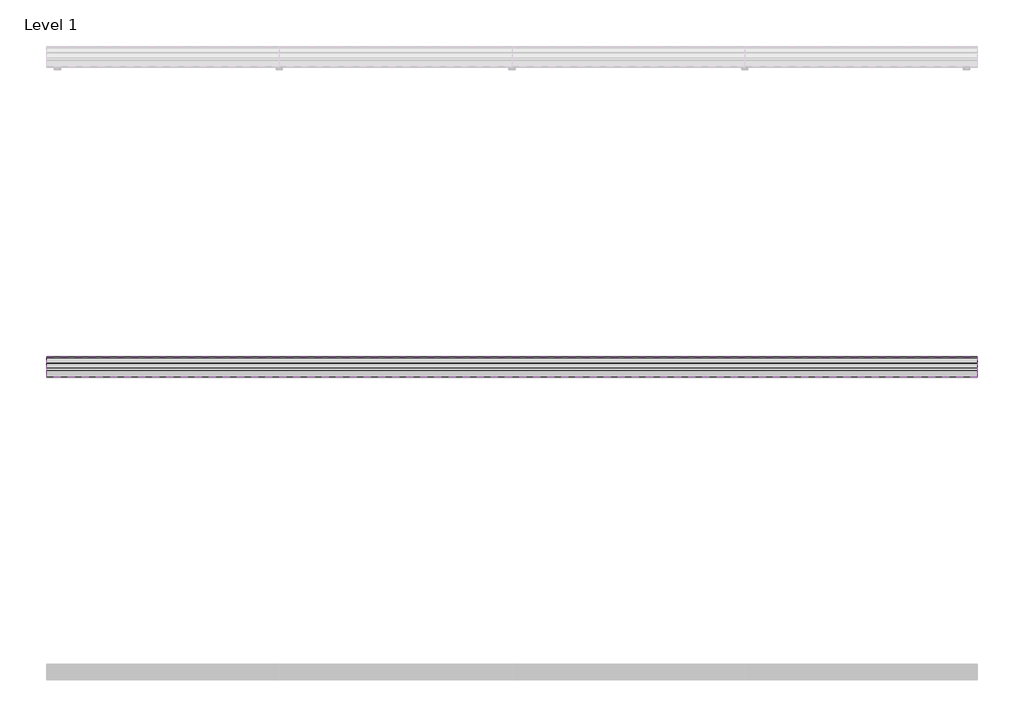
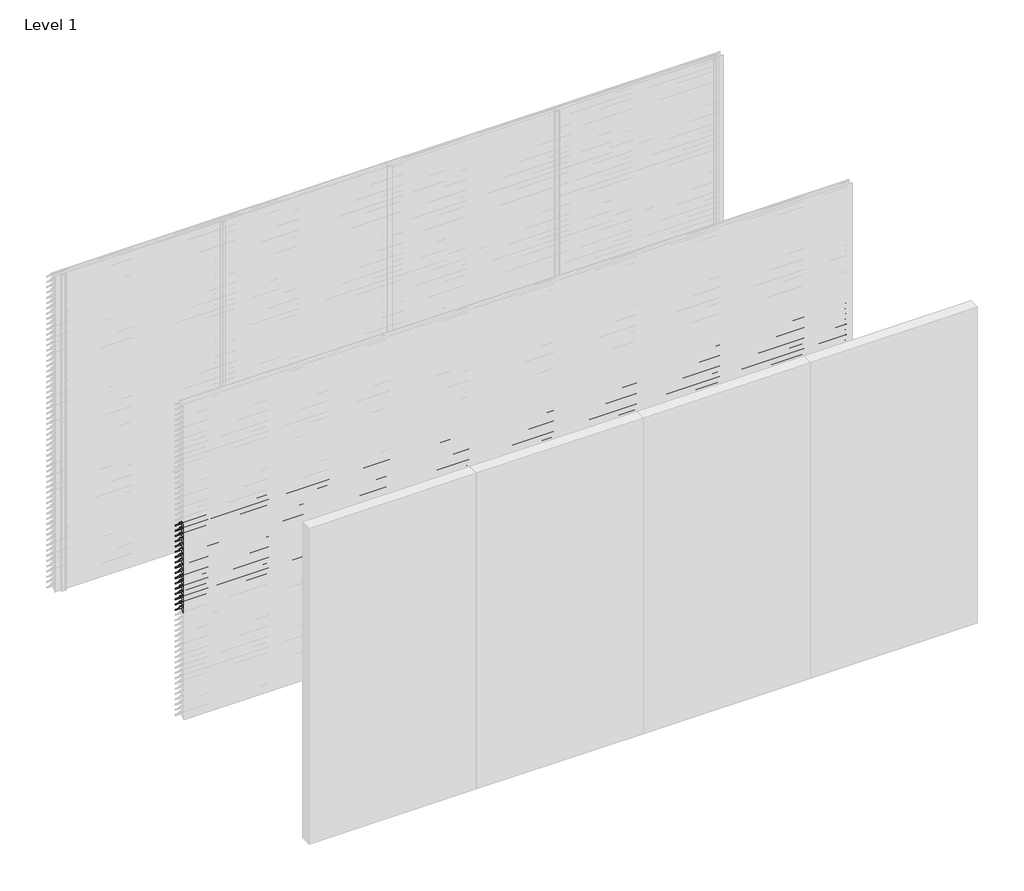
# One storey, part 90 of 173: 17 proxies.
"""IFC4 building model written with IfcOpenShell, lengths in millimetres."""

import ifcopenshell
import ifcopenshell.guid

model = None  # the IFC model being written
_history = None  # IfcOwnerHistory: only IFC2X3 demands one
_inside = {}  # id of a spatial element -> (the spatial element, [elements in it])
_under = {}  # id of a project, library or spatial element -> (it, [spatial elements below it])
_declared = {}  # id of a project -> (the project, [libraries it declares])
_typed = {}  # id of a type object -> (the type object, [elements of that type])
_made_of = {}  # id of a material, layer set ... -> (it, [elements and type objects made of it])


def new_model(schema):
    """Start an empty IFC model of exactly this schema.

    Asked for "IFC4X3", IfcOpenShell would pick the latest addendum, in which some entities
    have other attributes; the version numbers below select the first issue.
    IFC2X3 requires an IfcOwnerHistory on every rooted entity: one is made here for all.
    """
    global model, _history
    if schema == "IFC4X3":
        model = ifcopenshell.file(schema_version=(4, 3, 0, 0))
    else:
        model = ifcopenshell.file(schema=schema)
    _inside.clear()
    _under.clear()
    _declared.clear()
    _typed.clear()
    _made_of.clear()
    _history = None
    if model.schema == "IFC2X3":
        org = make("IfcOrganization", Name="unknown")
        user = make(
            "IfcPersonAndOrganization",
            ThePerson=make("IfcPerson", FamilyName="unknown"),
            TheOrganization=org,
        )
        app = make(
            "IfcApplication",
            ApplicationDeveloper=org,
            Version="unknown",
            ApplicationFullName="unknown",
            ApplicationIdentifier="unknown",
        )
        _history = make(
            "IfcOwnerHistory",
            OwningUser=user,
            OwningApplication=app,
            ChangeAction="ADDED",
            CreationDate=0,
        )
    return model


def make(cls, **values):
    """One entity of the class cls with the attributes given. An attribute that is None is left unset."""
    return model.create_entity(
        cls, **{name: value for name, value in values.items() if value is not None}
    )


def rooted(cls, **values):
    """An entity with a GlobalId (a new one), such as an element, a storey or a relation."""
    return make(cls, GlobalId=ifcopenshell.guid.new(), OwnerHistory=_history, **values)


def si_unit(unit_type, name, prefix=None):
    """IfcSIUnit, for example si_unit("LENGTHUNIT", "METRE", prefix="MILLI")."""
    return make("IfcSIUnit", UnitType=unit_type, Prefix=prefix, Name=name)


def assignment(units):
    """IfcUnitAssignment: the units of a project."""
    return None if units is None else make("IfcUnitAssignment", Units=units)


def point(xyz):
    """IfcCartesianPoint."""
    return None if xyz is None else make("IfcCartesianPoint", Coordinates=xyz)


def direction(xyz):
    """IfcDirection."""
    return None if xyz is None else make("IfcDirection", DirectionRatios=xyz)


def frame(location, z_axis=None, x_axis=None):
    """IfcAxis2Placement3D, a coordinate frame: its origin and axes. An axis left out is left unset."""
    return make(
        "IfcAxis2Placement3D",
        Location=point(location),
        Axis=direction(z_axis),
        RefDirection=direction(x_axis),
    )


def frame_2d(location, x_axis=None):
    """IfcAxis2Placement2D, a coordinate frame in the plane: its origin and x axis."""
    return make(
        "IfcAxis2Placement2D", Location=point(location), RefDirection=direction(x_axis)
    )


def origin():
    """The frame at (0, 0, 0) with its axes left unset."""
    return frame((0.0, 0.0, 0.0))


def place(relative_to, where):
    """IfcLocalPlacement: puts the frame where relative to a parent placement (None: the world)."""
    return make(
        "IfcLocalPlacement", PlacementRelTo=relative_to, RelativePlacement=where
    )


def context(
    kind, dimensions, precision=None, world=None, true_north=None, identifier=None
):
    """IfcGeometricRepresentationContext, for example the 3D "Model" context."""
    return make(
        "IfcGeometricRepresentationContext",
        ContextIdentifier=identifier,
        ContextType=kind,
        CoordinateSpaceDimension=dimensions,
        Precision=precision,
        WorldCoordinateSystem=world,
        TrueNorth=true_north,
    )


def project(units=None, contexts=None):
    """IfcProject with its units and contexts."""
    return rooted(
        "IfcProject",
        Name="project",
        RepresentationContexts=contexts,
        UnitsInContext=assignment(units),
    )


def spatial(cls, under=None, at=None, **own):
    """A site, building, storey or space (cls), placed at a placement, below another one or the project."""
    s = rooted(cls, ObjectPlacement=at, **own)
    if under is not None:
        _under.setdefault(under.id(), (under, []))[1].append(s)
    return s


def polyline(points):
    """IfcPolyline through the points."""
    return make("IfcPolyline", Points=[point(p) for p in points])


def circle_curve(where, radius):
    """IfcCircle in the frame where."""
    return make("IfcCircle", Position=where, Radius=radius)


def trimmed(basis, trim1, trim2, sense, master):
    """IfcTrimmedCurve: the piece of a basis curve between two trims."""
    return make(
        "IfcTrimmedCurve",
        BasisCurve=basis,
        Trim1=trim1,
        Trim2=trim2,
        SenseAgreement=sense,
        MasterRepresentation=master,
    )


def segment(curve, same_sense, transition):
    """IfcCompositeCurveSegment."""
    return make(
        "IfcCompositeCurveSegment",
        Transition=transition,
        SameSense=same_sense,
        ParentCurve=curve,
    )


def composite_curve(segments, self_intersect=None):
    """IfcCompositeCurve: segments joined end to end."""
    return make("IfcCompositeCurve", Segments=segments, SelfIntersect=self_intersect)


def outline(outer, holes=None, kind="AREA"):
    """IfcArbitraryClosedProfileDef: a profile drawn as a closed curve; with holes, ...WithVoids."""
    if holes is None:
        return make("IfcArbitraryClosedProfileDef", ProfileType=kind, OuterCurve=outer)
    return make(
        "IfcArbitraryProfileDefWithVoids",
        ProfileType=kind,
        OuterCurve=outer,
        InnerCurves=holes,
    )


def extrude(swept, where, along, depth):
    """IfcExtrudedAreaSolid: the profile swept, set in the frame where, extruded along a direction by depth."""
    return make(
        "IfcExtrudedAreaSolid",
        SweptArea=swept,
        Position=where,
        ExtrudedDirection=direction(along),
        Depth=depth,
    )


def shape(context_of_items, identifier, shape_type, items):
    """IfcShapeRepresentation: the items that make up one representation, for example the "Body"."""
    return make(
        "IfcShapeRepresentation",
        ContextOfItems=context_of_items,
        RepresentationIdentifier=identifier,
        RepresentationType=shape_type,
        Items=items,
    )


def made_of(thing, what):
    """Note that an element or type object is made of a material, layer set ...; save() writes the relation."""
    if what is not None:
        _made_of.setdefault(what.id(), (what, []))[1].append(thing)
    return thing


def element(
    cls,
    number,
    at=None,
    inside=None,
    cuts=None,
    type_object=None,
    material=None,
    context=None,
    identifier="Body",
    shape_type=None,
    held_by="IfcProductDefinitionShape",
    body=None,
    shapes=None,
    **own,
):
    """One element of the class cls, such as IfcWall. Its Tag is "e" and its number.

    at: its placement. inside: the storey or other place that contains it. cuts: it is an
    opening in that element (IfcRelVoidsElement). A single representation is given by context,
    identifier, shape_type and body (its items); several are given by shapes. held_by: the class
    of the entity that holds the representations. save() writes the other relations.
    """
    e = rooted(cls, Tag="e%d" % number, ObjectPlacement=at, **own)
    if body is not None:
        shapes = [shape(context, identifier, shape_type, body)]
    if shapes is not None:
        e.Representation = make(held_by, Representations=shapes)
    if inside is not None:
        _inside.setdefault(inside.id(), (inside, []))[1].append(e)
    if cuts is not None:
        rooted(
            "IfcRelVoidsElement", RelatingBuildingElement=cuts, RelatedOpeningElement=e
        )
    if type_object is not None:
        _typed.setdefault(type_object.id(), (type_object, []))[1].append(e)
    return made_of(e, material)


def aggregate(whole, parts):
    """IfcRelAggregates: a whole, such as a stair, and the parts it consists of."""
    return rooted("IfcRelAggregates", RelatingObject=whole, RelatedObjects=parts)


def save(model, path):
    """Write the relations noted so far, then the file.

    IfcRelAggregates (storeys below a building ...), IfcRelContainedInSpatialStructure (elements
    in a storey), IfcRelDefinesByType, IfcRelAssociatesMaterial and IfcRelDeclares: one each for
    every whole, place, type object, material and project.
    """
    for whole, parts in _under.values():
        aggregate(whole, parts)
    for where, things in _inside.values():
        rooted(
            "IfcRelContainedInSpatialStructure",
            RelatedElements=things,
            RelatingStructure=where,
        )
    for kind, things in _typed.values():
        rooted("IfcRelDefinesByType", RelatedObjects=things, RelatingType=kind)
    for what, things in _made_of.values():
        rooted("IfcRelAssociatesMaterial", RelatedObjects=things, RelatingMaterial=what)
    for by, libraries in _declared.values():
        rooted("IfcRelDeclares", RelatingContext=by, RelatedDefinitions=libraries)
    model.write(path)


model = new_model("IFC4")

# Units and contexts
model_context = context("Model", 3, world=origin())
ifc_project = project(units=[si_unit("LENGTHUNIT", "METRE", prefix="MILLI")], contexts=[model_context])

# Site, building, storey
site = spatial("IfcSite", under=ifc_project)
building = spatial("IfcBuilding", under=site)
storey = spatial("IfcBuildingStorey", under=building, Name="Level 1", Elevation=0.0)

# Proxies
placement = place(None, origin())
element("IfcBuildingElementProxy", 1, Name="Wall Sweeps", at=placement, inside=storey, context=model_context, shape_type="SweptSolid", body=[
    extrude(outline(composite_curve([segment(polyline([(-25998.0, 1809.1474905), (-25998.0, 1811.6227417)]), True, "CONTINUOUS"), segment(trimmed(circle_curve(frame_2d((-25951.2682172, 1766.2200208)), 65.1557103), [point((-25998.0, 1811.6227417))], [point((-25954.4014323, 1831.3003524))], False, "CARTESIAN"), True, "CONTINUOUS"), segment(polyline([(-25954.4014323, 1831.3003524), (-25934.8315836, 1831.3003524)]), True, "CONTINUOUS"), segment(trimmed(circle_curve(frame_2d((-25732.7329489, 1978.5533172)), 250.0545817), [point((-25934.8315836, 1831.3003524))], [point((-25941.4452143, 1840.8344583))], False, "CARTESIAN"), True, "CONTINUOUS"), segment(trimmed(circle_curve(frame_2d((-25953.2981792, 1835.1737835)), 13.1352966), [point((-25941.4452143, 1840.8344583))], [point((-25953.8171475, 1848.298824))], True, "CARTESIAN"), True, "CONTINUOUS"), segment(polyline([(-25953.8171475, 1848.298824), (-25953.8171475, 1850.0)]), True, "CONTINUOUS"), segment(trimmed(circle_curve(frame_2d((-25953.2981792, 1835.1737835)), 14.8352966), [point((-25953.8171475, 1850.0))], [point((-25939.9637661, 1841.6760487))], False, "CARTESIAN"), True, "CONTINUOUS"), segment(trimmed(circle_curve(frame_2d((-25732.7329489, 1978.5533172)), 248.3545817), [point((-25939.9637661, 1841.6760487))], [point((-25873.8787895, 1774.2059416))], True, "CARTESIAN"), True, "CONTINUOUS"), segment(trimmed(circle_curve(frame_2d((-25883.8147537, 1761.6649442)), 16.0), [point((-25873.8787895, 1774.2059416))], [point((-25867.8648347, 1760.4))], False, "CARTESIAN"), True, "CONTINUOUS"), segment(polyline([(-25867.8648347, 1760.4), (-25869.6712069, 1760.4)]), True, "CONTINUOUS"), segment(trimmed(circle_curve(frame_2d((-25883.8147537, 1761.6649442)), 14.2), [point((-25869.6712069, 1760.4))], [point((-25874.9518628, 1772.7594998))], True, "CARTESIAN"), True, "CONTINUOUS"), segment(trimmed(circle_curve(frame_2d((-25732.7329489, 1978.5533172)), 250.1545817), [point((-25874.9518628, 1772.7594998))], [point((-25933.7064024, 1829.6003524))], False, "CARTESIAN"), True, "CONTINUOUS"), segment(polyline([(-25933.7064024, 1829.6003524), (-25954.3602632, 1829.6003524)]), True, "CONTINUOUS"), segment(trimmed(circle_curve(frame_2d((-25951.2682172, 1766.2200208)), 63.4557103), [point((-25954.3602632, 1829.6003524))], [point((-25998.0, 1809.1474905))], True, "CARTESIAN"), True, "CONTINUOUS")], self_intersect=False)), frame((0.0, 0.0, 0.0), z_axis=(1.0, 0.0, 0.0), x_axis=(0.0, 1.0, 0.0)), (0.0, 0.0, 1.0), 6000.0),
])
element("IfcBuildingElementProxy", 2, Name="Wall Sweeps", at=placement, inside=storey, context=model_context, shape_type="SweptSolid", body=[
    extrude(outline(composite_curve([segment(polyline([(-25998.0, 1759.1474905), (-25998.0, 1761.6227417)]), True, "CONTINUOUS"), segment(trimmed(circle_curve(frame_2d((-25951.2682172, 1716.2200208)), 65.1557103), [point((-25998.0, 1761.6227417))], [point((-25954.4014323, 1781.3003524))], False, "CARTESIAN"), True, "CONTINUOUS"), segment(polyline([(-25954.4014323, 1781.3003524), (-25934.8315836, 1781.3003524)]), True, "CONTINUOUS"), segment(trimmed(circle_curve(frame_2d((-25732.7329489, 1928.5533172)), 250.0545817), [point((-25934.8315836, 1781.3003524))], [point((-25941.4452143, 1790.8344583))], False, "CARTESIAN"), True, "CONTINUOUS"), segment(trimmed(circle_curve(frame_2d((-25953.2981792, 1785.1737835)), 13.1352966), [point((-25941.4452143, 1790.8344583))], [point((-25953.8171475, 1798.298824))], True, "CARTESIAN"), True, "CONTINUOUS"), segment(polyline([(-25953.8171475, 1798.298824), (-25953.8171475, 1800.0)]), True, "CONTINUOUS"), segment(trimmed(circle_curve(frame_2d((-25953.2981792, 1785.1737835)), 14.8352966), [point((-25953.8171475, 1800.0))], [point((-25939.9637661, 1791.6760487))], False, "CARTESIAN"), True, "CONTINUOUS"), segment(trimmed(circle_curve(frame_2d((-25732.7329489, 1928.5533172)), 248.3545817), [point((-25939.9637661, 1791.6760487))], [point((-25873.8787895, 1724.2059416))], True, "CARTESIAN"), True, "CONTINUOUS"), segment(trimmed(circle_curve(frame_2d((-25883.8147537, 1711.6649442)), 16.0), [point((-25873.8787895, 1724.2059416))], [point((-25867.8648347, 1710.4))], False, "CARTESIAN"), True, "CONTINUOUS"), segment(polyline([(-25867.8648347, 1710.4), (-25869.6712069, 1710.4)]), True, "CONTINUOUS"), segment(trimmed(circle_curve(frame_2d((-25883.8147537, 1711.6649442)), 14.2), [point((-25869.6712069, 1710.4))], [point((-25874.9518628, 1722.7594998))], True, "CARTESIAN"), True, "CONTINUOUS"), segment(trimmed(circle_curve(frame_2d((-25732.7329489, 1928.5533172)), 250.1545817), [point((-25874.9518628, 1722.7594998))], [point((-25933.7064024, 1779.6003524))], False, "CARTESIAN"), True, "CONTINUOUS"), segment(polyline([(-25933.7064024, 1779.6003524), (-25954.3602632, 1779.6003524)]), True, "CONTINUOUS"), segment(trimmed(circle_curve(frame_2d((-25951.2682172, 1716.2200208)), 63.4557103), [point((-25954.3602632, 1779.6003524))], [point((-25998.0, 1759.1474905))], True, "CARTESIAN"), True, "CONTINUOUS")], self_intersect=False)), frame((0.0, 0.0, 0.0), z_axis=(1.0, 0.0, 0.0), x_axis=(0.0, 1.0, 0.0)), (0.0, 0.0, 1.0), 6000.0),
])
element("IfcBuildingElementProxy", 3, Name="Wall Sweeps", at=placement, inside=storey, context=model_context, shape_type="SweptSolid", body=[
    extrude(outline(composite_curve([segment(polyline([(-25998.0, 1709.1474905), (-25998.0, 1711.6227417)]), True, "CONTINUOUS"), segment(trimmed(circle_curve(frame_2d((-25951.2682172, 1666.2200208)), 65.1557103), [point((-25998.0, 1711.6227417))], [point((-25954.4014323, 1731.3003524))], False, "CARTESIAN"), True, "CONTINUOUS"), segment(polyline([(-25954.4014323, 1731.3003524), (-25934.8315836, 1731.3003524)]), True, "CONTINUOUS"), segment(trimmed(circle_curve(frame_2d((-25732.7329489, 1878.5533172)), 250.0545817), [point((-25934.8315836, 1731.3003524))], [point((-25941.4452143, 1740.8344583))], False, "CARTESIAN"), True, "CONTINUOUS"), segment(trimmed(circle_curve(frame_2d((-25953.2981792, 1735.1737835)), 13.1352966), [point((-25941.4452143, 1740.8344583))], [point((-25953.8171475, 1748.298824))], True, "CARTESIAN"), True, "CONTINUOUS"), segment(polyline([(-25953.8171475, 1748.298824), (-25953.8171475, 1750.0)]), True, "CONTINUOUS"), segment(trimmed(circle_curve(frame_2d((-25953.2981792, 1735.1737835)), 14.8352966), [point((-25953.8171475, 1750.0))], [point((-25939.9637661, 1741.6760487))], False, "CARTESIAN"), True, "CONTINUOUS"), segment(trimmed(circle_curve(frame_2d((-25732.7329489, 1878.5533172)), 248.3545817), [point((-25939.9637661, 1741.6760487))], [point((-25873.8787895, 1674.2059416))], True, "CARTESIAN"), True, "CONTINUOUS"), segment(trimmed(circle_curve(frame_2d((-25883.8147537, 1661.6649442)), 16.0), [point((-25873.8787895, 1674.2059416))], [point((-25867.8648347, 1660.4))], False, "CARTESIAN"), True, "CONTINUOUS"), segment(polyline([(-25867.8648347, 1660.4), (-25869.6712069, 1660.4)]), True, "CONTINUOUS"), segment(trimmed(circle_curve(frame_2d((-25883.8147537, 1661.6649442)), 14.2), [point((-25869.6712069, 1660.4))], [point((-25874.9518628, 1672.7594998))], True, "CARTESIAN"), True, "CONTINUOUS"), segment(trimmed(circle_curve(frame_2d((-25732.7329489, 1878.5533172)), 250.1545817), [point((-25874.9518628, 1672.7594998))], [point((-25933.7064024, 1729.6003524))], False, "CARTESIAN"), True, "CONTINUOUS"), segment(polyline([(-25933.7064024, 1729.6003524), (-25954.3602632, 1729.6003524)]), True, "CONTINUOUS"), segment(trimmed(circle_curve(frame_2d((-25951.2682172, 1666.2200208)), 63.4557103), [point((-25954.3602632, 1729.6003524))], [point((-25998.0, 1709.1474905))], True, "CARTESIAN"), True, "CONTINUOUS")], self_intersect=False)), frame((0.0, 0.0, 0.0), z_axis=(1.0, 0.0, 0.0), x_axis=(0.0, 1.0, 0.0)), (0.0, 0.0, 1.0), 6000.0),
])
element("IfcBuildingElementProxy", 4, Name="Wall Sweeps", at=placement, inside=storey, context=model_context, shape_type="SweptSolid", body=[
    extrude(outline(composite_curve([segment(polyline([(-25998.0, 1659.1474905), (-25998.0, 1661.6227417)]), True, "CONTINUOUS"), segment(trimmed(circle_curve(frame_2d((-25951.2682172, 1616.2200208)), 65.1557103), [point((-25998.0, 1661.6227417))], [point((-25954.4014323, 1681.3003524))], False, "CARTESIAN"), True, "CONTINUOUS"), segment(polyline([(-25954.4014323, 1681.3003524), (-25934.8315836, 1681.3003524)]), True, "CONTINUOUS"), segment(trimmed(circle_curve(frame_2d((-25732.7329489, 1828.5533172)), 250.0545817), [point((-25934.8315836, 1681.3003524))], [point((-25941.4452143, 1690.8344583))], False, "CARTESIAN"), True, "CONTINUOUS"), segment(trimmed(circle_curve(frame_2d((-25953.2981792, 1685.1737835)), 13.1352966), [point((-25941.4452143, 1690.8344583))], [point((-25953.8171475, 1698.298824))], True, "CARTESIAN"), True, "CONTINUOUS"), segment(polyline([(-25953.8171475, 1698.298824), (-25953.8171475, 1700.0)]), True, "CONTINUOUS"), segment(trimmed(circle_curve(frame_2d((-25953.2981792, 1685.1737835)), 14.8352966), [point((-25953.8171475, 1700.0))], [point((-25939.9637661, 1691.6760487))], False, "CARTESIAN"), True, "CONTINUOUS"), segment(trimmed(circle_curve(frame_2d((-25732.7329489, 1828.5533172)), 248.3545817), [point((-25939.9637661, 1691.6760487))], [point((-25873.8787895, 1624.2059416))], True, "CARTESIAN"), True, "CONTINUOUS"), segment(trimmed(circle_curve(frame_2d((-25883.8147537, 1611.6649442)), 16.0), [point((-25873.8787895, 1624.2059416))], [point((-25867.8648347, 1610.4))], False, "CARTESIAN"), True, "CONTINUOUS"), segment(polyline([(-25867.8648347, 1610.4), (-25869.6712069, 1610.4)]), True, "CONTINUOUS"), segment(trimmed(circle_curve(frame_2d((-25883.8147537, 1611.6649442)), 14.2), [point((-25869.6712069, 1610.4))], [point((-25874.9518628, 1622.7594998))], True, "CARTESIAN"), True, "CONTINUOUS"), segment(trimmed(circle_curve(frame_2d((-25732.7329489, 1828.5533172)), 250.1545817), [point((-25874.9518628, 1622.7594998))], [point((-25933.7064024, 1679.6003524))], False, "CARTESIAN"), True, "CONTINUOUS"), segment(polyline([(-25933.7064024, 1679.6003524), (-25954.3602632, 1679.6003524)]), True, "CONTINUOUS"), segment(trimmed(circle_curve(frame_2d((-25951.2682172, 1616.2200208)), 63.4557103), [point((-25954.3602632, 1679.6003524))], [point((-25998.0, 1659.1474905))], True, "CARTESIAN"), True, "CONTINUOUS")], self_intersect=False)), frame((0.0, 0.0, 0.0), z_axis=(1.0, 0.0, 0.0), x_axis=(0.0, 1.0, 0.0)), (0.0, 0.0, 1.0), 6000.0),
])
element("IfcBuildingElementProxy", 5, Name="Wall Sweeps", at=placement, inside=storey, context=model_context, shape_type="SweptSolid", body=[
    extrude(outline(composite_curve([segment(polyline([(-25998.0, 1609.1474905), (-25998.0, 1611.6227417)]), True, "CONTINUOUS"), segment(trimmed(circle_curve(frame_2d((-25951.2682172, 1566.2200208)), 65.1557103), [point((-25998.0, 1611.6227417))], [point((-25954.4014323, 1631.3003524))], False, "CARTESIAN"), True, "CONTINUOUS"), segment(polyline([(-25954.4014323, 1631.3003524), (-25934.8315836, 1631.3003524)]), True, "CONTINUOUS"), segment(trimmed(circle_curve(frame_2d((-25732.7329489, 1778.5533172)), 250.0545817), [point((-25934.8315836, 1631.3003524))], [point((-25941.4452143, 1640.8344583))], False, "CARTESIAN"), True, "CONTINUOUS"), segment(trimmed(circle_curve(frame_2d((-25953.2981792, 1635.1737835)), 13.1352966), [point((-25941.4452143, 1640.8344583))], [point((-25953.8171475, 1648.298824))], True, "CARTESIAN"), True, "CONTINUOUS"), segment(polyline([(-25953.8171475, 1648.298824), (-25953.8171475, 1650.0)]), True, "CONTINUOUS"), segment(trimmed(circle_curve(frame_2d((-25953.2981792, 1635.1737835)), 14.8352966), [point((-25953.8171475, 1650.0))], [point((-25939.9637661, 1641.6760487))], False, "CARTESIAN"), True, "CONTINUOUS"), segment(trimmed(circle_curve(frame_2d((-25732.7329489, 1778.5533172)), 248.3545817), [point((-25939.9637661, 1641.6760487))], [point((-25873.8787895, 1574.2059416))], True, "CARTESIAN"), True, "CONTINUOUS"), segment(trimmed(circle_curve(frame_2d((-25883.8147537, 1561.6649442)), 16.0), [point((-25873.8787895, 1574.2059416))], [point((-25867.8648347, 1560.4))], False, "CARTESIAN"), True, "CONTINUOUS"), segment(polyline([(-25867.8648347, 1560.4), (-25869.6712069, 1560.4)]), True, "CONTINUOUS"), segment(trimmed(circle_curve(frame_2d((-25883.8147537, 1561.6649442)), 14.2), [point((-25869.6712069, 1560.4))], [point((-25874.9518628, 1572.7594998))], True, "CARTESIAN"), True, "CONTINUOUS"), segment(trimmed(circle_curve(frame_2d((-25732.7329489, 1778.5533172)), 250.1545817), [point((-25874.9518628, 1572.7594998))], [point((-25933.7064024, 1629.6003524))], False, "CARTESIAN"), True, "CONTINUOUS"), segment(polyline([(-25933.7064024, 1629.6003524), (-25954.3602632, 1629.6003524)]), True, "CONTINUOUS"), segment(trimmed(circle_curve(frame_2d((-25951.2682172, 1566.2200208)), 63.4557103), [point((-25954.3602632, 1629.6003524))], [point((-25998.0, 1609.1474905))], True, "CARTESIAN"), True, "CONTINUOUS")], self_intersect=False)), frame((0.0, 0.0, 0.0), z_axis=(1.0, 0.0, 0.0), x_axis=(0.0, 1.0, 0.0)), (0.0, 0.0, 1.0), 6000.0),
])
element("IfcBuildingElementProxy", 6, Name="Wall Sweeps", at=placement, inside=storey, context=model_context, shape_type="SweptSolid", body=[
    extrude(outline(composite_curve([segment(polyline([(-25998.0, 1559.1474905), (-25998.0, 1561.6227417)]), True, "CONTINUOUS"), segment(trimmed(circle_curve(frame_2d((-25951.2682172, 1516.2200208)), 65.1557103), [point((-25998.0, 1561.6227417))], [point((-25954.4014323, 1581.3003524))], False, "CARTESIAN"), True, "CONTINUOUS"), segment(polyline([(-25954.4014323, 1581.3003524), (-25934.8315836, 1581.3003524)]), True, "CONTINUOUS"), segment(trimmed(circle_curve(frame_2d((-25732.7329489, 1728.5533172)), 250.0545817), [point((-25934.8315836, 1581.3003524))], [point((-25941.4452143, 1590.8344583))], False, "CARTESIAN"), True, "CONTINUOUS"), segment(trimmed(circle_curve(frame_2d((-25953.2981792, 1585.1737835)), 13.1352966), [point((-25941.4452143, 1590.8344583))], [point((-25953.8171475, 1598.298824))], True, "CARTESIAN"), True, "CONTINUOUS"), segment(polyline([(-25953.8171475, 1598.298824), (-25953.8171475, 1600.0)]), True, "CONTINUOUS"), segment(trimmed(circle_curve(frame_2d((-25953.2981792, 1585.1737835)), 14.8352966), [point((-25953.8171475, 1600.0))], [point((-25939.9637661, 1591.6760487))], False, "CARTESIAN"), True, "CONTINUOUS"), segment(trimmed(circle_curve(frame_2d((-25732.7329489, 1728.5533172)), 248.3545817), [point((-25939.9637661, 1591.6760487))], [point((-25873.8787895, 1524.2059416))], True, "CARTESIAN"), True, "CONTINUOUS"), segment(trimmed(circle_curve(frame_2d((-25883.8147537, 1511.6649442)), 16.0), [point((-25873.8787895, 1524.2059416))], [point((-25867.8648347, 1510.4))], False, "CARTESIAN"), True, "CONTINUOUS"), segment(polyline([(-25867.8648347, 1510.4), (-25869.6712069, 1510.4)]), True, "CONTINUOUS"), segment(trimmed(circle_curve(frame_2d((-25883.8147537, 1511.6649442)), 14.2), [point((-25869.6712069, 1510.4))], [point((-25874.9518628, 1522.7594998))], True, "CARTESIAN"), True, "CONTINUOUS"), segment(trimmed(circle_curve(frame_2d((-25732.7329489, 1728.5533172)), 250.1545817), [point((-25874.9518628, 1522.7594998))], [point((-25933.7064024, 1579.6003524))], False, "CARTESIAN"), True, "CONTINUOUS"), segment(polyline([(-25933.7064024, 1579.6003524), (-25954.3602632, 1579.6003524)]), True, "CONTINUOUS"), segment(trimmed(circle_curve(frame_2d((-25951.2682172, 1516.2200208)), 63.4557103), [point((-25954.3602632, 1579.6003524))], [point((-25998.0, 1559.1474905))], True, "CARTESIAN"), True, "CONTINUOUS")], self_intersect=False)), frame((0.0, 0.0, 0.0), z_axis=(1.0, 0.0, 0.0), x_axis=(0.0, 1.0, 0.0)), (0.0, 0.0, 1.0), 6000.0),
])
element("IfcBuildingElementProxy", 7, Name="Wall Sweeps", at=placement, inside=storey, context=model_context, shape_type="SweptSolid", body=[
    extrude(outline(composite_curve([segment(polyline([(-25998.0, 1509.1474905), (-25998.0, 1511.6227417)]), True, "CONTINUOUS"), segment(trimmed(circle_curve(frame_2d((-25951.2682172, 1466.2200208)), 65.1557103), [point((-25998.0, 1511.6227417))], [point((-25954.4014323, 1531.3003524))], False, "CARTESIAN"), True, "CONTINUOUS"), segment(polyline([(-25954.4014323, 1531.3003524), (-25934.8315836, 1531.3003524)]), True, "CONTINUOUS"), segment(trimmed(circle_curve(frame_2d((-25732.7329489, 1678.5533172)), 250.0545817), [point((-25934.8315836, 1531.3003524))], [point((-25941.4452143, 1540.8344583))], False, "CARTESIAN"), True, "CONTINUOUS"), segment(trimmed(circle_curve(frame_2d((-25953.2981792, 1535.1737835)), 13.1352966), [point((-25941.4452143, 1540.8344583))], [point((-25953.8171475, 1548.298824))], True, "CARTESIAN"), True, "CONTINUOUS"), segment(polyline([(-25953.8171475, 1548.298824), (-25953.8171475, 1550.0)]), True, "CONTINUOUS"), segment(trimmed(circle_curve(frame_2d((-25953.2981792, 1535.1737835)), 14.8352966), [point((-25953.8171475, 1550.0))], [point((-25939.9637661, 1541.6760487))], False, "CARTESIAN"), True, "CONTINUOUS"), segment(trimmed(circle_curve(frame_2d((-25732.7329489, 1678.5533172)), 248.3545817), [point((-25939.9637661, 1541.6760487))], [point((-25873.8787895, 1474.2059416))], True, "CARTESIAN"), True, "CONTINUOUS"), segment(trimmed(circle_curve(frame_2d((-25883.8147537, 1461.6649442)), 16.0), [point((-25873.8787895, 1474.2059416))], [point((-25867.8648347, 1460.4))], False, "CARTESIAN"), True, "CONTINUOUS"), segment(polyline([(-25867.8648347, 1460.4), (-25869.6712069, 1460.4)]), True, "CONTINUOUS"), segment(trimmed(circle_curve(frame_2d((-25883.8147537, 1461.6649442)), 14.2), [point((-25869.6712069, 1460.4))], [point((-25874.9518628, 1472.7594998))], True, "CARTESIAN"), True, "CONTINUOUS"), segment(trimmed(circle_curve(frame_2d((-25732.7329489, 1678.5533172)), 250.1545817), [point((-25874.9518628, 1472.7594998))], [point((-25933.7064024, 1529.6003524))], False, "CARTESIAN"), True, "CONTINUOUS"), segment(polyline([(-25933.7064024, 1529.6003524), (-25954.3602632, 1529.6003524)]), True, "CONTINUOUS"), segment(trimmed(circle_curve(frame_2d((-25951.2682172, 1466.2200208)), 63.4557103), [point((-25954.3602632, 1529.6003524))], [point((-25998.0, 1509.1474905))], True, "CARTESIAN"), True, "CONTINUOUS")], self_intersect=False)), frame((0.0, 0.0, 0.0), z_axis=(1.0, 0.0, 0.0), x_axis=(0.0, 1.0, 0.0)), (0.0, 0.0, 1.0), 6000.0),
])
element("IfcBuildingElementProxy", 8, Name="Wall Sweeps", at=placement, inside=storey, context=model_context, shape_type="SweptSolid", body=[
    extrude(outline(composite_curve([segment(polyline([(-25998.0, 1459.1474905), (-25998.0, 1461.6227417)]), True, "CONTINUOUS"), segment(trimmed(circle_curve(frame_2d((-25951.2682172, 1416.2200208)), 65.1557103), [point((-25998.0, 1461.6227417))], [point((-25954.4014323, 1481.3003524))], False, "CARTESIAN"), True, "CONTINUOUS"), segment(polyline([(-25954.4014323, 1481.3003524), (-25934.8315836, 1481.3003524)]), True, "CONTINUOUS"), segment(trimmed(circle_curve(frame_2d((-25732.7329489, 1628.5533172)), 250.0545817), [point((-25934.8315836, 1481.3003524))], [point((-25941.4452143, 1490.8344583))], False, "CARTESIAN"), True, "CONTINUOUS"), segment(trimmed(circle_curve(frame_2d((-25953.2981792, 1485.1737835)), 13.1352966), [point((-25941.4452143, 1490.8344583))], [point((-25953.8171475, 1498.298824))], True, "CARTESIAN"), True, "CONTINUOUS"), segment(polyline([(-25953.8171475, 1498.298824), (-25953.8171475, 1500.0)]), True, "CONTINUOUS"), segment(trimmed(circle_curve(frame_2d((-25953.2981792, 1485.1737835)), 14.8352966), [point((-25953.8171475, 1500.0))], [point((-25939.9637661, 1491.6760487))], False, "CARTESIAN"), True, "CONTINUOUS"), segment(trimmed(circle_curve(frame_2d((-25732.7329489, 1628.5533172)), 248.3545817), [point((-25939.9637661, 1491.6760487))], [point((-25873.8787895, 1424.2059416))], True, "CARTESIAN"), True, "CONTINUOUS"), segment(trimmed(circle_curve(frame_2d((-25883.8147537, 1411.6649442)), 16.0), [point((-25873.8787895, 1424.2059416))], [point((-25867.8648347, 1410.4))], False, "CARTESIAN"), True, "CONTINUOUS"), segment(polyline([(-25867.8648347, 1410.4), (-25869.6712069, 1410.4)]), True, "CONTINUOUS"), segment(trimmed(circle_curve(frame_2d((-25883.8147537, 1411.6649442)), 14.2), [point((-25869.6712069, 1410.4))], [point((-25874.9518628, 1422.7594998))], True, "CARTESIAN"), True, "CONTINUOUS"), segment(trimmed(circle_curve(frame_2d((-25732.7329489, 1628.5533172)), 250.1545817), [point((-25874.9518628, 1422.7594998))], [point((-25933.7064024, 1479.6003524))], False, "CARTESIAN"), True, "CONTINUOUS"), segment(polyline([(-25933.7064024, 1479.6003524), (-25954.3602632, 1479.6003524)]), True, "CONTINUOUS"), segment(trimmed(circle_curve(frame_2d((-25951.2682172, 1416.2200208)), 63.4557103), [point((-25954.3602632, 1479.6003524))], [point((-25998.0, 1459.1474905))], True, "CARTESIAN"), True, "CONTINUOUS")], self_intersect=False)), frame((0.0, 0.0, 0.0), z_axis=(1.0, 0.0, 0.0), x_axis=(0.0, 1.0, 0.0)), (0.0, 0.0, 1.0), 6000.0),
])
element("IfcBuildingElementProxy", 9, Name="Wall Sweeps", at=placement, inside=storey, context=model_context, shape_type="SweptSolid", body=[
    extrude(outline(composite_curve([segment(polyline([(-25998.0, 1409.1474905), (-25998.0, 1411.6227417)]), True, "CONTINUOUS"), segment(trimmed(circle_curve(frame_2d((-25951.2682172, 1366.2200208)), 65.1557103), [point((-25998.0, 1411.6227417))], [point((-25954.4014323, 1431.3003524))], False, "CARTESIAN"), True, "CONTINUOUS"), segment(polyline([(-25954.4014323, 1431.3003524), (-25934.8315836, 1431.3003524)]), True, "CONTINUOUS"), segment(trimmed(circle_curve(frame_2d((-25732.7329489, 1578.5533172)), 250.0545817), [point((-25934.8315836, 1431.3003524))], [point((-25941.4452143, 1440.8344583))], False, "CARTESIAN"), True, "CONTINUOUS"), segment(trimmed(circle_curve(frame_2d((-25953.2981792, 1435.1737835)), 13.1352966), [point((-25941.4452143, 1440.8344583))], [point((-25953.8171475, 1448.298824))], True, "CARTESIAN"), True, "CONTINUOUS"), segment(polyline([(-25953.8171475, 1448.298824), (-25953.8171475, 1450.0)]), True, "CONTINUOUS"), segment(trimmed(circle_curve(frame_2d((-25953.2981792, 1435.1737835)), 14.8352966), [point((-25953.8171475, 1450.0))], [point((-25939.9637661, 1441.6760487))], False, "CARTESIAN"), True, "CONTINUOUS"), segment(trimmed(circle_curve(frame_2d((-25732.7329489, 1578.5533172)), 248.3545817), [point((-25939.9637661, 1441.6760487))], [point((-25873.8787895, 1374.2059416))], True, "CARTESIAN"), True, "CONTINUOUS"), segment(trimmed(circle_curve(frame_2d((-25883.8147537, 1361.6649442)), 16.0), [point((-25873.8787895, 1374.2059416))], [point((-25867.8648347, 1360.4))], False, "CARTESIAN"), True, "CONTINUOUS"), segment(polyline([(-25867.8648347, 1360.4), (-25869.6712069, 1360.4)]), True, "CONTINUOUS"), segment(trimmed(circle_curve(frame_2d((-25883.8147537, 1361.6649442)), 14.2), [point((-25869.6712069, 1360.4))], [point((-25874.9518628, 1372.7594998))], True, "CARTESIAN"), True, "CONTINUOUS"), segment(trimmed(circle_curve(frame_2d((-25732.7329489, 1578.5533172)), 250.1545817), [point((-25874.9518628, 1372.7594998))], [point((-25933.7064024, 1429.6003524))], False, "CARTESIAN"), True, "CONTINUOUS"), segment(polyline([(-25933.7064024, 1429.6003524), (-25954.3602632, 1429.6003524)]), True, "CONTINUOUS"), segment(trimmed(circle_curve(frame_2d((-25951.2682172, 1366.2200208)), 63.4557103), [point((-25954.3602632, 1429.6003524))], [point((-25998.0, 1409.1474905))], True, "CARTESIAN"), True, "CONTINUOUS")], self_intersect=False)), frame((0.0, 0.0, 0.0), z_axis=(1.0, 0.0, 0.0), x_axis=(0.0, 1.0, 0.0)), (0.0, 0.0, 1.0), 6000.0),
])
element("IfcBuildingElementProxy", 10, Name="Wall Sweeps", at=placement, inside=storey, context=model_context, shape_type="SweptSolid", body=[
    extrude(outline(composite_curve([segment(polyline([(-25998.0, 1359.1474905), (-25998.0, 1361.6227417)]), True, "CONTINUOUS"), segment(trimmed(circle_curve(frame_2d((-25951.2682172, 1316.2200208)), 65.1557103), [point((-25998.0, 1361.6227417))], [point((-25954.4014323, 1381.3003524))], False, "CARTESIAN"), True, "CONTINUOUS"), segment(polyline([(-25954.4014323, 1381.3003524), (-25934.8315836, 1381.3003524)]), True, "CONTINUOUS"), segment(trimmed(circle_curve(frame_2d((-25732.7329489, 1528.5533172)), 250.0545817), [point((-25934.8315836, 1381.3003524))], [point((-25941.4452143, 1390.8344583))], False, "CARTESIAN"), True, "CONTINUOUS"), segment(trimmed(circle_curve(frame_2d((-25953.2981792, 1385.1737835)), 13.1352966), [point((-25941.4452143, 1390.8344583))], [point((-25953.8171475, 1398.298824))], True, "CARTESIAN"), True, "CONTINUOUS"), segment(polyline([(-25953.8171475, 1398.298824), (-25953.8171475, 1400.0)]), True, "CONTINUOUS"), segment(trimmed(circle_curve(frame_2d((-25953.2981792, 1385.1737835)), 14.8352966), [point((-25953.8171475, 1400.0))], [point((-25939.9637661, 1391.6760487))], False, "CARTESIAN"), True, "CONTINUOUS"), segment(trimmed(circle_curve(frame_2d((-25732.7329489, 1528.5533172)), 248.3545817), [point((-25939.9637661, 1391.6760487))], [point((-25873.8787895, 1324.2059416))], True, "CARTESIAN"), True, "CONTINUOUS"), segment(trimmed(circle_curve(frame_2d((-25883.8147537, 1311.6649442)), 16.0), [point((-25873.8787895, 1324.2059416))], [point((-25867.8648347, 1310.4))], False, "CARTESIAN"), True, "CONTINUOUS"), segment(polyline([(-25867.8648347, 1310.4), (-25869.6712069, 1310.4)]), True, "CONTINUOUS"), segment(trimmed(circle_curve(frame_2d((-25883.8147537, 1311.6649442)), 14.2), [point((-25869.6712069, 1310.4))], [point((-25874.9518628, 1322.7594998))], True, "CARTESIAN"), True, "CONTINUOUS"), segment(trimmed(circle_curve(frame_2d((-25732.7329489, 1528.5533172)), 250.1545817), [point((-25874.9518628, 1322.7594998))], [point((-25933.7064024, 1379.6003524))], False, "CARTESIAN"), True, "CONTINUOUS"), segment(polyline([(-25933.7064024, 1379.6003524), (-25954.3602632, 1379.6003524)]), True, "CONTINUOUS"), segment(trimmed(circle_curve(frame_2d((-25951.2682172, 1316.2200208)), 63.4557103), [point((-25954.3602632, 1379.6003524))], [point((-25998.0, 1359.1474905))], True, "CARTESIAN"), True, "CONTINUOUS")], self_intersect=False)), frame((0.0, 0.0, 0.0), z_axis=(1.0, 0.0, 0.0), x_axis=(0.0, 1.0, 0.0)), (0.0, 0.0, 1.0), 6000.0),
])
element("IfcBuildingElementProxy", 11, Name="Wall Sweeps", at=placement, inside=storey, context=model_context, shape_type="SweptSolid", body=[
    extrude(outline(composite_curve([segment(polyline([(-25998.0, 1309.1474905), (-25998.0, 1311.6227417)]), True, "CONTINUOUS"), segment(trimmed(circle_curve(frame_2d((-25951.2682172, 1266.2200208)), 65.1557103), [point((-25998.0, 1311.6227417))], [point((-25954.4014323, 1331.3003524))], False, "CARTESIAN"), True, "CONTINUOUS"), segment(polyline([(-25954.4014323, 1331.3003524), (-25934.8315836, 1331.3003524)]), True, "CONTINUOUS"), segment(trimmed(circle_curve(frame_2d((-25732.7329489, 1478.5533172)), 250.0545817), [point((-25934.8315836, 1331.3003524))], [point((-25941.4452143, 1340.8344583))], False, "CARTESIAN"), True, "CONTINUOUS"), segment(trimmed(circle_curve(frame_2d((-25953.2981792, 1335.1737835)), 13.1352966), [point((-25941.4452143, 1340.8344583))], [point((-25953.8171475, 1348.298824))], True, "CARTESIAN"), True, "CONTINUOUS"), segment(polyline([(-25953.8171475, 1348.298824), (-25953.8171475, 1350.0)]), True, "CONTINUOUS"), segment(trimmed(circle_curve(frame_2d((-25953.2981792, 1335.1737835)), 14.8352966), [point((-25953.8171475, 1350.0))], [point((-25939.9637661, 1341.6760487))], False, "CARTESIAN"), True, "CONTINUOUS"), segment(trimmed(circle_curve(frame_2d((-25732.7329489, 1478.5533172)), 248.3545817), [point((-25939.9637661, 1341.6760487))], [point((-25873.8787895, 1274.2059416))], True, "CARTESIAN"), True, "CONTINUOUS"), segment(trimmed(circle_curve(frame_2d((-25883.8147537, 1261.6649442)), 16.0), [point((-25873.8787895, 1274.2059416))], [point((-25867.8648347, 1260.4))], False, "CARTESIAN"), True, "CONTINUOUS"), segment(polyline([(-25867.8648347, 1260.4), (-25869.6712069, 1260.4)]), True, "CONTINUOUS"), segment(trimmed(circle_curve(frame_2d((-25883.8147537, 1261.6649442)), 14.2), [point((-25869.6712069, 1260.4))], [point((-25874.9518628, 1272.7594998))], True, "CARTESIAN"), True, "CONTINUOUS"), segment(trimmed(circle_curve(frame_2d((-25732.7329489, 1478.5533172)), 250.1545817), [point((-25874.9518628, 1272.7594998))], [point((-25933.7064024, 1329.6003524))], False, "CARTESIAN"), True, "CONTINUOUS"), segment(polyline([(-25933.7064024, 1329.6003524), (-25954.3602632, 1329.6003524)]), True, "CONTINUOUS"), segment(trimmed(circle_curve(frame_2d((-25951.2682172, 1266.2200208)), 63.4557103), [point((-25954.3602632, 1329.6003524))], [point((-25998.0, 1309.1474905))], True, "CARTESIAN"), True, "CONTINUOUS")], self_intersect=False)), frame((0.0, 0.0, 0.0), z_axis=(1.0, 0.0, 0.0), x_axis=(0.0, 1.0, 0.0)), (0.0, 0.0, 1.0), 6000.0),
])
element("IfcBuildingElementProxy", 12, Name="Wall Sweeps", at=placement, inside=storey, context=model_context, shape_type="SweptSolid", body=[
    extrude(outline(composite_curve([segment(polyline([(-25998.0, 1259.1474905), (-25998.0, 1261.6227417)]), True, "CONTINUOUS"), segment(trimmed(circle_curve(frame_2d((-25951.2682172, 1216.2200208)), 65.1557103), [point((-25998.0, 1261.6227417))], [point((-25954.4014323, 1281.3003524))], False, "CARTESIAN"), True, "CONTINUOUS"), segment(polyline([(-25954.4014323, 1281.3003524), (-25934.8315836, 1281.3003524)]), True, "CONTINUOUS"), segment(trimmed(circle_curve(frame_2d((-25732.7329489, 1428.5533172)), 250.0545817), [point((-25934.8315836, 1281.3003524))], [point((-25941.4452143, 1290.8344583))], False, "CARTESIAN"), True, "CONTINUOUS"), segment(trimmed(circle_curve(frame_2d((-25953.2981792, 1285.1737835)), 13.1352966), [point((-25941.4452143, 1290.8344583))], [point((-25953.8171475, 1298.298824))], True, "CARTESIAN"), True, "CONTINUOUS"), segment(polyline([(-25953.8171475, 1298.298824), (-25953.8171475, 1300.0)]), True, "CONTINUOUS"), segment(trimmed(circle_curve(frame_2d((-25953.2981792, 1285.1737835)), 14.8352966), [point((-25953.8171475, 1300.0))], [point((-25939.9637661, 1291.6760487))], False, "CARTESIAN"), True, "CONTINUOUS"), segment(trimmed(circle_curve(frame_2d((-25732.7329489, 1428.5533172)), 248.3545817), [point((-25939.9637661, 1291.6760487))], [point((-25873.8787895, 1224.2059416))], True, "CARTESIAN"), True, "CONTINUOUS"), segment(trimmed(circle_curve(frame_2d((-25883.8147537, 1211.6649442)), 16.0), [point((-25873.8787895, 1224.2059416))], [point((-25867.8648347, 1210.4))], False, "CARTESIAN"), True, "CONTINUOUS"), segment(polyline([(-25867.8648347, 1210.4), (-25869.6712069, 1210.4)]), True, "CONTINUOUS"), segment(trimmed(circle_curve(frame_2d((-25883.8147537, 1211.6649442)), 14.2), [point((-25869.6712069, 1210.4))], [point((-25874.9518628, 1222.7594998))], True, "CARTESIAN"), True, "CONTINUOUS"), segment(trimmed(circle_curve(frame_2d((-25732.7329489, 1428.5533172)), 250.1545817), [point((-25874.9518628, 1222.7594998))], [point((-25933.7064024, 1279.6003524))], False, "CARTESIAN"), True, "CONTINUOUS"), segment(polyline([(-25933.7064024, 1279.6003524), (-25954.3602632, 1279.6003524)]), True, "CONTINUOUS"), segment(trimmed(circle_curve(frame_2d((-25951.2682172, 1216.2200208)), 63.4557103), [point((-25954.3602632, 1279.6003524))], [point((-25998.0, 1259.1474905))], True, "CARTESIAN"), True, "CONTINUOUS")], self_intersect=False)), frame((0.0, 0.0, 0.0), z_axis=(1.0, 0.0, 0.0), x_axis=(0.0, 1.0, 0.0)), (0.0, 0.0, 1.0), 6000.0),
])
element("IfcBuildingElementProxy", 13, Name="Wall Sweeps", at=placement, inside=storey, context=model_context, shape_type="SweptSolid", body=[
    extrude(outline(composite_curve([segment(polyline([(-25998.0, 1209.1474905), (-25998.0, 1211.6227417)]), True, "CONTINUOUS"), segment(trimmed(circle_curve(frame_2d((-25951.2682172, 1166.2200208)), 65.1557103), [point((-25998.0, 1211.6227417))], [point((-25954.4014323, 1231.3003524))], False, "CARTESIAN"), True, "CONTINUOUS"), segment(polyline([(-25954.4014323, 1231.3003524), (-25934.8315836, 1231.3003524)]), True, "CONTINUOUS"), segment(trimmed(circle_curve(frame_2d((-25732.7329489, 1378.5533172)), 250.0545817), [point((-25934.8315836, 1231.3003524))], [point((-25941.4452143, 1240.8344583))], False, "CARTESIAN"), True, "CONTINUOUS"), segment(trimmed(circle_curve(frame_2d((-25953.2981792, 1235.1737835)), 13.1352966), [point((-25941.4452143, 1240.8344583))], [point((-25953.8171475, 1248.298824))], True, "CARTESIAN"), True, "CONTINUOUS"), segment(polyline([(-25953.8171475, 1248.298824), (-25953.8171475, 1250.0)]), True, "CONTINUOUS"), segment(trimmed(circle_curve(frame_2d((-25953.2981792, 1235.1737835)), 14.8352966), [point((-25953.8171475, 1250.0))], [point((-25939.9637661, 1241.6760487))], False, "CARTESIAN"), True, "CONTINUOUS"), segment(trimmed(circle_curve(frame_2d((-25732.7329489, 1378.5533172)), 248.3545817), [point((-25939.9637661, 1241.6760487))], [point((-25873.8787895, 1174.2059416))], True, "CARTESIAN"), True, "CONTINUOUS"), segment(trimmed(circle_curve(frame_2d((-25883.8147537, 1161.6649442)), 16.0), [point((-25873.8787895, 1174.2059416))], [point((-25867.8648347, 1160.4))], False, "CARTESIAN"), True, "CONTINUOUS"), segment(polyline([(-25867.8648347, 1160.4), (-25869.6712069, 1160.4)]), True, "CONTINUOUS"), segment(trimmed(circle_curve(frame_2d((-25883.8147537, 1161.6649442)), 14.2), [point((-25869.6712069, 1160.4))], [point((-25874.9518628, 1172.7594998))], True, "CARTESIAN"), True, "CONTINUOUS"), segment(trimmed(circle_curve(frame_2d((-25732.7329489, 1378.5533172)), 250.1545817), [point((-25874.9518628, 1172.7594998))], [point((-25933.7064024, 1229.6003524))], False, "CARTESIAN"), True, "CONTINUOUS"), segment(polyline([(-25933.7064024, 1229.6003524), (-25954.3602632, 1229.6003524)]), True, "CONTINUOUS"), segment(trimmed(circle_curve(frame_2d((-25951.2682172, 1166.2200208)), 63.4557103), [point((-25954.3602632, 1229.6003524))], [point((-25998.0, 1209.1474905))], True, "CARTESIAN"), True, "CONTINUOUS")], self_intersect=False)), frame((0.0, 0.0, 0.0), z_axis=(1.0, 0.0, 0.0), x_axis=(0.0, 1.0, 0.0)), (0.0, 0.0, 1.0), 6000.0),
])
element("IfcBuildingElementProxy", 14, Name="Wall Sweeps", at=placement, inside=storey, context=model_context, shape_type="SweptSolid", body=[
    extrude(outline(composite_curve([segment(polyline([(-25998.0, 1159.1474905), (-25998.0, 1161.6227417)]), True, "CONTINUOUS"), segment(trimmed(circle_curve(frame_2d((-25951.2682172, 1116.2200208)), 65.1557103), [point((-25998.0, 1161.6227417))], [point((-25954.4014323, 1181.3003524))], False, "CARTESIAN"), True, "CONTINUOUS"), segment(polyline([(-25954.4014323, 1181.3003524), (-25934.8315836, 1181.3003524)]), True, "CONTINUOUS"), segment(trimmed(circle_curve(frame_2d((-25732.7329489, 1328.5533172)), 250.0545817), [point((-25934.8315836, 1181.3003524))], [point((-25941.4452143, 1190.8344583))], False, "CARTESIAN"), True, "CONTINUOUS"), segment(trimmed(circle_curve(frame_2d((-25953.2981792, 1185.1737835)), 13.1352966), [point((-25941.4452143, 1190.8344583))], [point((-25953.8171475, 1198.298824))], True, "CARTESIAN"), True, "CONTINUOUS"), segment(polyline([(-25953.8171475, 1198.298824), (-25953.8171475, 1200.0)]), True, "CONTINUOUS"), segment(trimmed(circle_curve(frame_2d((-25953.2981792, 1185.1737835)), 14.8352966), [point((-25953.8171475, 1200.0))], [point((-25939.9637661, 1191.6760487))], False, "CARTESIAN"), True, "CONTINUOUS"), segment(trimmed(circle_curve(frame_2d((-25732.7329489, 1328.5533172)), 248.3545817), [point((-25939.9637661, 1191.6760487))], [point((-25873.8787895, 1124.2059416))], True, "CARTESIAN"), True, "CONTINUOUS"), segment(trimmed(circle_curve(frame_2d((-25883.8147537, 1111.6649442)), 16.0), [point((-25873.8787895, 1124.2059416))], [point((-25867.8648347, 1110.4))], False, "CARTESIAN"), True, "CONTINUOUS"), segment(polyline([(-25867.8648347, 1110.4), (-25869.6712069, 1110.4)]), True, "CONTINUOUS"), segment(trimmed(circle_curve(frame_2d((-25883.8147537, 1111.6649442)), 14.2), [point((-25869.6712069, 1110.4))], [point((-25874.9518628, 1122.7594998))], True, "CARTESIAN"), True, "CONTINUOUS"), segment(trimmed(circle_curve(frame_2d((-25732.7329489, 1328.5533172)), 250.1545817), [point((-25874.9518628, 1122.7594998))], [point((-25933.7064024, 1179.6003524))], False, "CARTESIAN"), True, "CONTINUOUS"), segment(polyline([(-25933.7064024, 1179.6003524), (-25954.3602632, 1179.6003524)]), True, "CONTINUOUS"), segment(trimmed(circle_curve(frame_2d((-25951.2682172, 1116.2200208)), 63.4557103), [point((-25954.3602632, 1179.6003524))], [point((-25998.0, 1159.1474905))], True, "CARTESIAN"), True, "CONTINUOUS")], self_intersect=False)), frame((0.0, 0.0, 0.0), z_axis=(1.0, 0.0, 0.0), x_axis=(0.0, 1.0, 0.0)), (0.0, 0.0, 1.0), 6000.0),
])
element("IfcBuildingElementProxy", 15, Name="Wall Sweeps", at=placement, inside=storey, context=model_context, shape_type="SweptSolid", body=[
    extrude(outline(composite_curve([segment(polyline([(-25998.0, 1109.1474905), (-25998.0, 1111.6227417)]), True, "CONTINUOUS"), segment(trimmed(circle_curve(frame_2d((-25951.2682172, 1066.2200208)), 65.1557103), [point((-25998.0, 1111.6227417))], [point((-25954.4014323, 1131.3003524))], False, "CARTESIAN"), True, "CONTINUOUS"), segment(polyline([(-25954.4014323, 1131.3003524), (-25934.8315836, 1131.3003524)]), True, "CONTINUOUS"), segment(trimmed(circle_curve(frame_2d((-25732.7329489, 1278.5533172)), 250.0545817), [point((-25934.8315836, 1131.3003524))], [point((-25941.4452143, 1140.8344583))], False, "CARTESIAN"), True, "CONTINUOUS"), segment(trimmed(circle_curve(frame_2d((-25953.2981792, 1135.1737835)), 13.1352966), [point((-25941.4452143, 1140.8344583))], [point((-25953.8171475, 1148.298824))], True, "CARTESIAN"), True, "CONTINUOUS"), segment(polyline([(-25953.8171475, 1148.298824), (-25953.8171475, 1150.0)]), True, "CONTINUOUS"), segment(trimmed(circle_curve(frame_2d((-25953.2981792, 1135.1737835)), 14.8352966), [point((-25953.8171475, 1150.0))], [point((-25939.9637661, 1141.6760487))], False, "CARTESIAN"), True, "CONTINUOUS"), segment(trimmed(circle_curve(frame_2d((-25732.7329489, 1278.5533172)), 248.3545817), [point((-25939.9637661, 1141.6760487))], [point((-25873.8787895, 1074.2059416))], True, "CARTESIAN"), True, "CONTINUOUS"), segment(trimmed(circle_curve(frame_2d((-25883.8147537, 1061.6649442)), 16.0), [point((-25873.8787895, 1074.2059416))], [point((-25867.8648347, 1060.4))], False, "CARTESIAN"), True, "CONTINUOUS"), segment(polyline([(-25867.8648347, 1060.4), (-25869.6712069, 1060.4)]), True, "CONTINUOUS"), segment(trimmed(circle_curve(frame_2d((-25883.8147537, 1061.6649442)), 14.2), [point((-25869.6712069, 1060.4))], [point((-25874.9518628, 1072.7594998))], True, "CARTESIAN"), True, "CONTINUOUS"), segment(trimmed(circle_curve(frame_2d((-25732.7329489, 1278.5533172)), 250.1545817), [point((-25874.9518628, 1072.7594998))], [point((-25933.7064024, 1129.6003524))], False, "CARTESIAN"), True, "CONTINUOUS"), segment(polyline([(-25933.7064024, 1129.6003524), (-25954.3602632, 1129.6003524)]), True, "CONTINUOUS"), segment(trimmed(circle_curve(frame_2d((-25951.2682172, 1066.2200208)), 63.4557103), [point((-25954.3602632, 1129.6003524))], [point((-25998.0, 1109.1474905))], True, "CARTESIAN"), True, "CONTINUOUS")], self_intersect=False)), frame((0.0, 0.0, 0.0), z_axis=(1.0, 0.0, 0.0), x_axis=(0.0, 1.0, 0.0)), (0.0, 0.0, 1.0), 6000.0),
])
element("IfcBuildingElementProxy", 16, Name="Wall Sweeps", at=placement, inside=storey, context=model_context, shape_type="SweptSolid", body=[
    extrude(outline(composite_curve([segment(polyline([(-25998.0, 1059.1474905), (-25998.0, 1061.6227417)]), True, "CONTINUOUS"), segment(trimmed(circle_curve(frame_2d((-25951.2682172, 1016.2200208)), 65.1557103), [point((-25998.0, 1061.6227417))], [point((-25954.4014323, 1081.3003524))], False, "CARTESIAN"), True, "CONTINUOUS"), segment(polyline([(-25954.4014323, 1081.3003524), (-25934.8315836, 1081.3003524)]), True, "CONTINUOUS"), segment(trimmed(circle_curve(frame_2d((-25732.7329489, 1228.5533172)), 250.0545817), [point((-25934.8315836, 1081.3003524))], [point((-25941.4452143, 1090.8344583))], False, "CARTESIAN"), True, "CONTINUOUS"), segment(trimmed(circle_curve(frame_2d((-25953.2981792, 1085.1737835)), 13.1352966), [point((-25941.4452143, 1090.8344583))], [point((-25953.8171475, 1098.298824))], True, "CARTESIAN"), True, "CONTINUOUS"), segment(polyline([(-25953.8171475, 1098.298824), (-25953.8171475, 1100.0)]), True, "CONTINUOUS"), segment(trimmed(circle_curve(frame_2d((-25953.2981792, 1085.1737835)), 14.8352966), [point((-25953.8171475, 1100.0))], [point((-25939.9637661, 1091.6760487))], False, "CARTESIAN"), True, "CONTINUOUS"), segment(trimmed(circle_curve(frame_2d((-25732.7329489, 1228.5533172)), 248.3545817), [point((-25939.9637661, 1091.6760487))], [point((-25873.8787895, 1024.2059416))], True, "CARTESIAN"), True, "CONTINUOUS"), segment(trimmed(circle_curve(frame_2d((-25883.8147537, 1011.6649442)), 16.0), [point((-25873.8787895, 1024.2059416))], [point((-25867.8648347, 1010.4))], False, "CARTESIAN"), True, "CONTINUOUS"), segment(polyline([(-25867.8648347, 1010.4), (-25869.6712069, 1010.4)]), True, "CONTINUOUS"), segment(trimmed(circle_curve(frame_2d((-25883.8147537, 1011.6649442)), 14.2), [point((-25869.6712069, 1010.4))], [point((-25874.9518628, 1022.7594998))], True, "CARTESIAN"), True, "CONTINUOUS"), segment(trimmed(circle_curve(frame_2d((-25732.7329489, 1228.5533172)), 250.1545817), [point((-25874.9518628, 1022.7594998))], [point((-25933.7064024, 1079.6003524))], False, "CARTESIAN"), True, "CONTINUOUS"), segment(polyline([(-25933.7064024, 1079.6003524), (-25954.3602632, 1079.6003524)]), True, "CONTINUOUS"), segment(trimmed(circle_curve(frame_2d((-25951.2682172, 1016.2200208)), 63.4557103), [point((-25954.3602632, 1079.6003524))], [point((-25998.0, 1059.1474905))], True, "CARTESIAN"), True, "CONTINUOUS")], self_intersect=False)), frame((0.0, 0.0, 0.0), z_axis=(1.0, 0.0, 0.0), x_axis=(0.0, 1.0, 0.0)), (0.0, 0.0, 1.0), 6000.0),
])
element("IfcBuildingElementProxy", 17, Name="Wall Sweeps", at=placement, inside=storey, context=model_context, shape_type="SweptSolid", body=[
    extrude(outline(composite_curve([segment(polyline([(-25998.0, 1009.1474905), (-25998.0, 1011.6227417)]), True, "CONTINUOUS"), segment(trimmed(circle_curve(frame_2d((-25951.2682172, 966.2200208)), 65.1557103), [point((-25998.0, 1011.6227417))], [point((-25954.4014323, 1031.3003524))], False, "CARTESIAN"), True, "CONTINUOUS"), segment(polyline([(-25954.4014323, 1031.3003524), (-25934.8315836, 1031.3003524)]), True, "CONTINUOUS"), segment(trimmed(circle_curve(frame_2d((-25732.7329489, 1178.5533172)), 250.0545817), [point((-25934.8315836, 1031.3003524))], [point((-25941.4452143, 1040.8344583))], False, "CARTESIAN"), True, "CONTINUOUS"), segment(trimmed(circle_curve(frame_2d((-25953.2981792, 1035.1737835)), 13.1352966), [point((-25941.4452143, 1040.8344583))], [point((-25953.8171475, 1048.298824))], True, "CARTESIAN"), True, "CONTINUOUS"), segment(polyline([(-25953.8171475, 1048.298824), (-25953.8171475, 1050.0)]), True, "CONTINUOUS"), segment(trimmed(circle_curve(frame_2d((-25953.2981792, 1035.1737835)), 14.8352966), [point((-25953.8171475, 1050.0))], [point((-25939.9637661, 1041.6760487))], False, "CARTESIAN"), True, "CONTINUOUS"), segment(trimmed(circle_curve(frame_2d((-25732.7329489, 1178.5533172)), 248.3545817), [point((-25939.9637661, 1041.6760487))], [point((-25873.8787895, 974.2059416))], True, "CARTESIAN"), True, "CONTINUOUS"), segment(trimmed(circle_curve(frame_2d((-25883.8147537, 961.6649442)), 16.0), [point((-25873.8787895, 974.2059416))], [point((-25867.8648347, 960.4))], False, "CARTESIAN"), True, "CONTINUOUS"), segment(polyline([(-25867.8648347, 960.4), (-25869.6712069, 960.4)]), True, "CONTINUOUS"), segment(trimmed(circle_curve(frame_2d((-25883.8147537, 961.6649442)), 14.2), [point((-25869.6712069, 960.4))], [point((-25874.9518628, 972.7594998))], True, "CARTESIAN"), True, "CONTINUOUS"), segment(trimmed(circle_curve(frame_2d((-25732.7329489, 1178.5533172)), 250.1545817), [point((-25874.9518628, 972.7594998))], [point((-25933.7064024, 1029.6003524))], False, "CARTESIAN"), True, "CONTINUOUS"), segment(polyline([(-25933.7064024, 1029.6003524), (-25954.3602632, 1029.6003524)]), True, "CONTINUOUS"), segment(trimmed(circle_curve(frame_2d((-25951.2682172, 966.2200208)), 63.4557103), [point((-25954.3602632, 1029.6003524))], [point((-25998.0, 1009.1474905))], True, "CARTESIAN"), True, "CONTINUOUS")], self_intersect=False)), frame((0.0, 0.0, 0.0), z_axis=(1.0, 0.0, 0.0), x_axis=(0.0, 1.0, 0.0)), (0.0, 0.0, 1.0), 6000.0),
])

save(model, "model.ifc")
